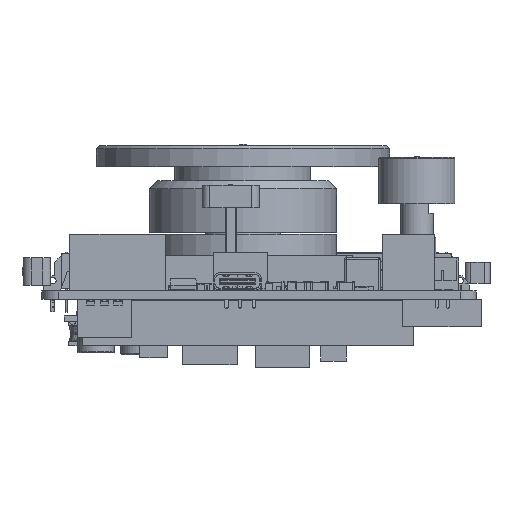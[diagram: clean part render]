
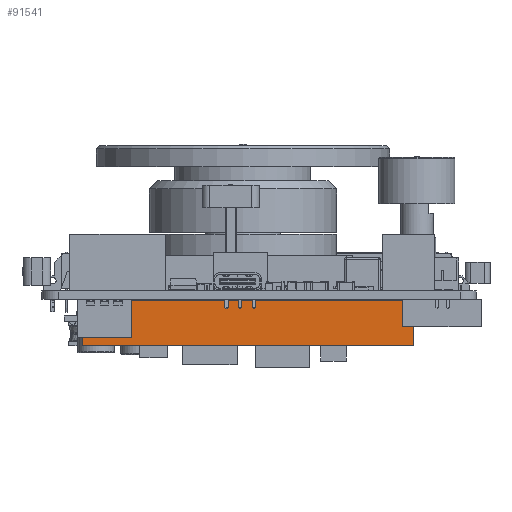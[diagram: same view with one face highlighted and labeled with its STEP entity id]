
A CAD part, front view. The second image highlights one B-rep face of the part: STEP entity #91541.
In plain terms, the highlighted planar face has unit normal (0, -1, 0) as drawn and (-1, 0, 0) by its records, which use the part's own axes.
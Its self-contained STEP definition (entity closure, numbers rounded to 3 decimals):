
#88918 = VERTEX_POINT('',#88919);
#88919 = CARTESIAN_POINT('',(-1.27,-59.69,0.));
#88927 = EDGE_CURVE('',#88918,#88928,#88930,.T.);
#88928 = VERTEX_POINT('',#88929);
#88929 = CARTESIAN_POINT('',(-1.27,-59.69,8.5));
#88930 = LINE('',#88931,#88932);
#88931 = CARTESIAN_POINT('',(-1.27,-59.69,0.));
#88932 = VECTOR('',#88933,1.);
#88933 = DIRECTION('',(0.,0.,1.));
#88990 = VERTEX_POINT('',#88991);
#88991 = CARTESIAN_POINT('',(-1.27,1.27,8.5));
#88997 = EDGE_CURVE('',#88998,#88990,#89000,.T.);
#88998 = VERTEX_POINT('',#88999);
#88999 = CARTESIAN_POINT('',(-1.27,1.27,0.));
#89000 = LINE('',#89001,#89002);
#89001 = CARTESIAN_POINT('',(-1.27,1.27,0.));
#89002 = VECTOR('',#89003,1.);
#89003 = DIRECTION('',(0.,0.,1.));
#89062 = EDGE_CURVE('',#88990,#88928,#89063,.T.);
#89063 = LINE('',#89064,#89065);
#89064 = CARTESIAN_POINT('',(-1.27,1.27,8.5));
#89065 = VECTOR('',#89066,1.);
#89066 = DIRECTION('',(0.,-1.,0.));
#89901 = EDGE_CURVE('',#88998,#88918,#89902,.T.);
#89902 = LINE('',#89903,#89904);
#89903 = CARTESIAN_POINT('',(-1.27,1.27,0.));
#89904 = VECTOR('',#89905,1.);
#89905 = DIRECTION('',(0.,-1.,0.));
#91541 = ADVANCED_FACE('',(#91542),#91548,.F.);
#91542 = FACE_BOUND('',#91543,.F.);
#91543 = EDGE_LOOP('',(#91544,#91545,#91546,#91547));
#91544 = ORIENTED_EDGE('',*,*,#88997,.T.);
#91545 = ORIENTED_EDGE('',*,*,#89062,.T.);
#91546 = ORIENTED_EDGE('',*,*,#88927,.F.);
#91547 = ORIENTED_EDGE('',*,*,#89901,.F.);
#91548 = PLANE('',#91549);
#91549 = AXIS2_PLACEMENT_3D('',#91550,#91551,#91552);
#91550 = CARTESIAN_POINT('',(-1.27,1.27,0.));
#91551 = DIRECTION('',(1.,0.,0.));
#91552 = DIRECTION('',(0.,-1.,0.));
